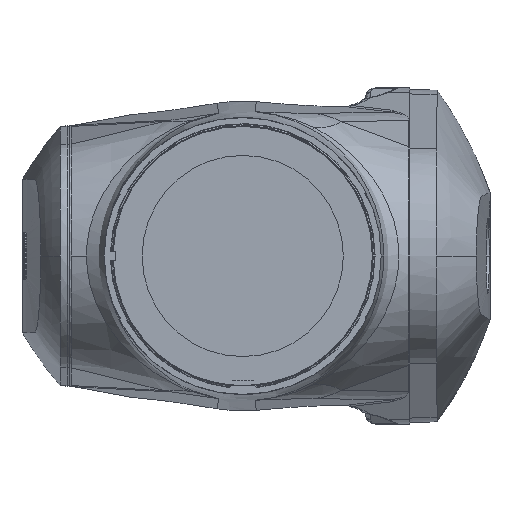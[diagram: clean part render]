
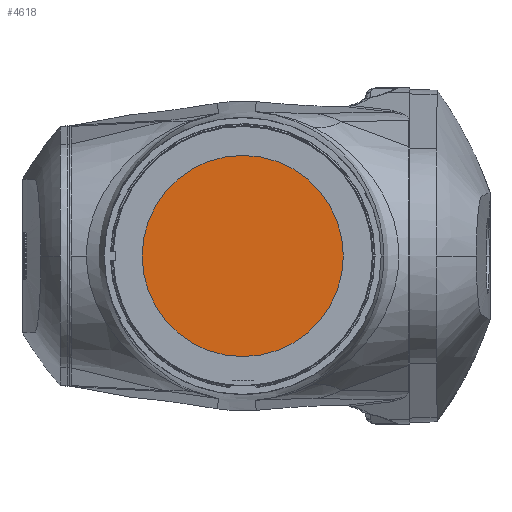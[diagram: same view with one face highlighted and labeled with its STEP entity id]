
A CAD part, left-side view. The second image highlights one B-rep face of the part: STEP entity #4618.
In plain terms, the highlighted planar face has unit normal (-1, 0, 0).
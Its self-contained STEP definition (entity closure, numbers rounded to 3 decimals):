
#2738 = DIRECTION ( 'NONE',  ( -1., 0., 0. ) ) ;
#3624 = EDGE_LOOP ( 'NONE', ( #5964, #39795 ) ) ;
#4618 = ADVANCED_FACE ( 'NONE', ( #27591 ), #28041, .T. ) ;
#5118 = DIRECTION ( 'NONE',  ( 0., -1., 0. ) ) ;
#5796 = AXIS2_PLACEMENT_3D ( 'NONE', #27486, #2738, #38254 ) ;
#5964 = ORIENTED_EDGE ( 'NONE', *, *, #31628, .T. ) ;
#6757 = DIRECTION ( 'NONE',  ( 0., -1., 0. ) ) ;
#9525 = CARTESIAN_POINT ( 'NONE',  ( 537., 85., 1940. ) ) ;
#10204 = CIRCLE ( 'NONE', #5796, 85. ) ;
#13641 = CARTESIAN_POINT ( 'NONE',  ( 537., 0., 1940. ) ) ;
#13745 = CIRCLE ( 'NONE', #19614, 85. ) ;
#13948 = AXIS2_PLACEMENT_3D ( 'NONE', #13641, #16862, #6757 ) ;
#14288 = CARTESIAN_POINT ( 'NONE',  ( 537., -85., 1940. ) ) ;
#15212 = CARTESIAN_POINT ( 'NONE',  ( 537., 0., 1940. ) ) ;
#16862 = DIRECTION ( 'NONE',  ( -1., 0., 0. ) ) ;
#19614 = AXIS2_PLACEMENT_3D ( 'NONE', #15212, #25742, #5118 ) ;
#22565 = EDGE_CURVE ( 'NONE', #42688, #25362, #13745, .T. ) ;
#25362 = VERTEX_POINT ( 'NONE', #9525 ) ;
#25742 = DIRECTION ( 'NONE',  ( -1., 0., 0. ) ) ;
#27486 = CARTESIAN_POINT ( 'NONE',  ( 537., 0., 1940. ) ) ;
#27591 = FACE_OUTER_BOUND ( 'NONE', #3624, .T. ) ;
#28041 = PLANE ( 'NONE',  #13948 ) ;
#31628 = EDGE_CURVE ( 'NONE', #25362, #42688, #10204, .T. ) ;
#38254 = DIRECTION ( 'NONE',  ( 0., -1., 0. ) ) ;
#39795 = ORIENTED_EDGE ( 'NONE', *, *, #22565, .T. ) ;
#42688 = VERTEX_POINT ( 'NONE', #14288 ) ;
